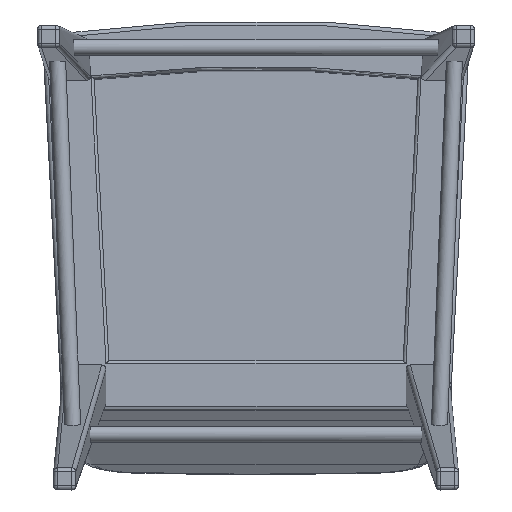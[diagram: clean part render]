
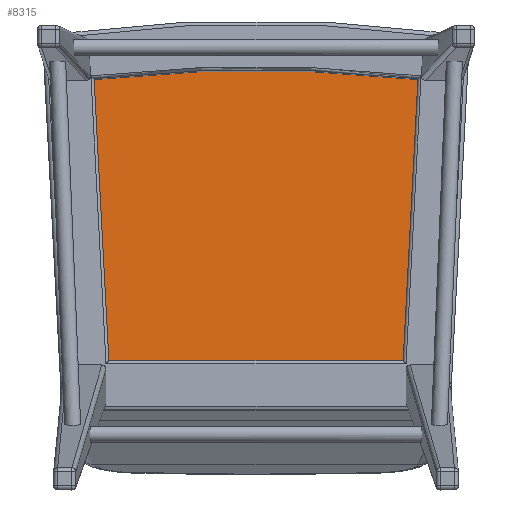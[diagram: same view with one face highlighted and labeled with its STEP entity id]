
A CAD part, front view. The second image highlights one B-rep face of the part: STEP entity #8315.
In plain terms, the highlighted planar face has unit normal (0, -0.999, 0.035).
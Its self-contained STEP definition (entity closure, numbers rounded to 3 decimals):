
#159 = CIRCLE ( 'NONE', #24425, 1465.201 ) ;
#2901 = CARTESIAN_POINT ( 'NONE',  ( -160.779, 742.068, 201.998 ) ) ;
#3167 = ORIENTED_EDGE ( 'NONE', *, *, #28236, .T. ) ;
#3798 = EDGE_CURVE ( 'NONE', #5712, #30708, #20414, .T. ) ;
#4911 = LINE ( 'NONE', #27465, #7744 ) ;
#5712 = VERTEX_POINT ( 'NONE', #36149 ) ;
#5853 = LINE ( 'NONE', #26297, #30837 ) ;
#7481 = VERTEX_POINT ( 'NONE', #30981 ) ;
#7744 = VECTOR ( 'NONE', #39098, 1000. ) ;
#8315 = ADVANCED_FACE ( 'NONE', ( #19121 ), #24227, .T. ) ;
#9209 = DIRECTION ( 'NONE',  ( 0., -0.999, 0.035 ) ) ;
#11206 = DIRECTION ( 'NONE',  ( 0., -0.035, -0.999 ) ) ;
#14298 = DIRECTION ( 'NONE',  ( 0.052, -0.035, -0.998 ) ) ;
#14859 = DIRECTION ( 'NONE',  ( 0., -0.035, -0.999 ) ) ;
#17009 = DIRECTION ( 'NONE',  ( 0., -0.999, 0.035 ) ) ;
#18076 = VECTOR ( 'NONE', #18245, 1000. ) ;
#18086 = CARTESIAN_POINT ( 'NONE',  ( 146.094, 732.289, -78.039 ) ) ;
#18135 = EDGE_CURVE ( 'NONE', #7481, #38077, #159, .T. ) ;
#18245 = DIRECTION ( 'NONE',  ( 1., 0., 0. ) ) ;
#19121 = FACE_OUTER_BOUND ( 'NONE', #26813, .T. ) ;
#20414 = LINE ( 'NONE', #27335, #18076 ) ;
#20931 = CARTESIAN_POINT ( 'NONE',  ( 0., 691.242, -1253.468 ) ) ;
#23466 = CARTESIAN_POINT ( 'NONE',  ( 0., 691.242, -1253.468 ) ) ;
#24227 = PLANE ( 'NONE',  #35073 ) ;
#24425 = AXIS2_PLACEMENT_3D ( 'NONE', #23466, #17009, #11206 ) ;
#26297 = CARTESIAN_POINT ( 'NONE',  ( -160.779, 742.068, 201.998 ) ) ;
#26813 = EDGE_LOOP ( 'NONE', ( #28934, #28638, #27303, #3167 ) ) ;
#27303 = ORIENTED_EDGE ( 'NONE', *, *, #18135, .T. ) ;
#27335 = CARTESIAN_POINT ( 'NONE',  ( -146.094, 732.289, -78.039 ) ) ;
#27465 = CARTESIAN_POINT ( 'NONE',  ( 146.094, 732.289, -78.039 ) ) ;
#28236 = EDGE_CURVE ( 'NONE', #38077, #5712, #5853, .T. ) ;
#28638 = ORIENTED_EDGE ( 'NONE', *, *, #29012, .T. ) ;
#28934 = ORIENTED_EDGE ( 'NONE', *, *, #3798, .T. ) ;
#29012 = EDGE_CURVE ( 'NONE', #30708, #7481, #4911, .T. ) ;
#30708 = VERTEX_POINT ( 'NONE', #18086 ) ;
#30837 = VECTOR ( 'NONE', #14298, 1000. ) ;
#30981 = CARTESIAN_POINT ( 'NONE',  ( 160.779, 742.068, 201.998 ) ) ;
#35073 = AXIS2_PLACEMENT_3D ( 'NONE', #20931, #9209, #14859 ) ;
#36149 = CARTESIAN_POINT ( 'NONE',  ( -146.094, 732.289, -78.039 ) ) ;
#38077 = VERTEX_POINT ( 'NONE', #2901 ) ;
#39098 = DIRECTION ( 'NONE',  ( 0.052, 0.035, 0.998 ) ) ;
